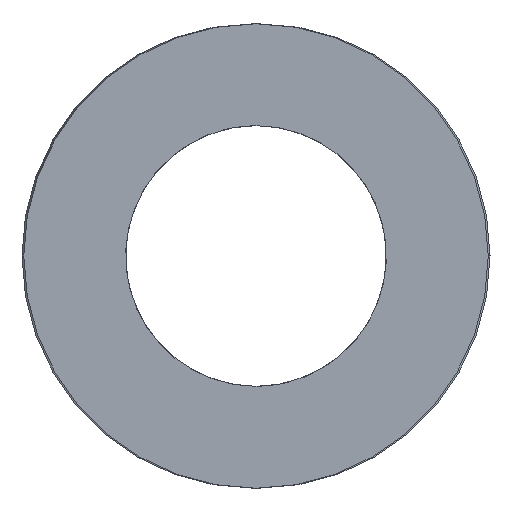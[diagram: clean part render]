
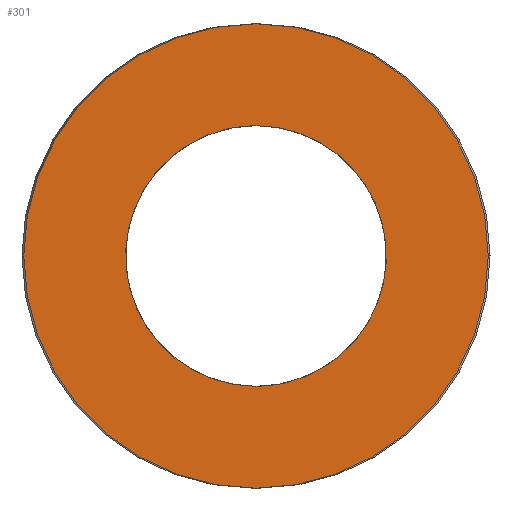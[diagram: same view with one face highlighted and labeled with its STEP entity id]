
A CAD part, left-side view. The second image highlights one B-rep face of the part: STEP entity #301.
In plain terms, the highlighted planar face has unit normal (-1, 0, 0).
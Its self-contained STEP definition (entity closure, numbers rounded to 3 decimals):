
#63=CARTESIAN_POINT('Vertex',(0.,15.5,0.)) ;
#77=CARTESIAN_POINT('Vertex',(0.,-15.5,0.)) ;
#80=CARTESIAN_POINT('Axis2P3D Location',(0.,0.,0.)) ;
#97=CARTESIAN_POINT('Axis2P3D Location',(0.,0.,0.)) ;
#232=CARTESIAN_POINT('Axis2P3D Location',(0.,7.75,0.)) ;
#242=CARTESIAN_POINT('Control Point',(0.,0.,-8.7)) ;
#243=CARTESIAN_POINT('Control Point',(0.,0.867,-8.7)) ;
#244=CARTESIAN_POINT('Control Point',(0.,1.734,-8.592)) ;
#245=CARTESIAN_POINT('Control Point',(0.,2.583,-8.376)) ;
#246=CARTESIAN_POINT('Control Point',(0.,4.209,-7.737)) ;
#247=CARTESIAN_POINT('Control Point',(0.,5.629,-6.719)) ;
#248=CARTESIAN_POINT('Control Point',(0.,6.272,-6.123)) ;
#249=CARTESIAN_POINT('Control Point',(0.,7.395,-4.785)) ;
#250=CARTESIAN_POINT('Control Point',(0.,8.156,-3.211)) ;
#251=CARTESIAN_POINT('Control Point',(0.,8.436,-2.381)) ;
#252=CARTESIAN_POINT('Control Point',(0.,8.783,-0.669)) ;
#253=CARTESIAN_POINT('Control Point',(0.,8.699,1.077)) ;
#254=CARTESIAN_POINT('Control Point',(0.,8.548,1.94)) ;
#255=CARTESIAN_POINT('Control Point',(0.,8.034,3.61)) ;
#256=CARTESIAN_POINT('Control Point',(0.,7.127,5.103)) ;
#257=CARTESIAN_POINT('Control Point',(0.,6.581,5.789)) ;
#258=CARTESIAN_POINT('Control Point',(0.,5.332,7.011)) ;
#259=CARTESIAN_POINT('Control Point',(0.,3.821,7.888)) ;
#260=CARTESIAN_POINT('Control Point',(0.,3.015,8.231)) ;
#261=CARTESIAN_POINT('Control Point',(0.,1.918,8.541)) ;
#262=CARTESIAN_POINT('Control Point',(0.,0.793,8.67)) ;
#263=CARTESIAN_POINT('Control Point',(0.,0.529,8.69)) ;
#264=CARTESIAN_POINT('Control Point',(0.,0.264,8.7)) ;
#265=CARTESIAN_POINT('Control Point',(0.,0.,8.7)) ;
#266=CARTESIAN_POINT('Vertex',(0.,0.,-8.7)) ;
#268=CARTESIAN_POINT('Vertex',(0.,0.,8.7)) ;
#272=CARTESIAN_POINT('Control Point',(0.,0.,8.7)) ;
#273=CARTESIAN_POINT('Control Point',(0.,-0.867,8.7)) ;
#274=CARTESIAN_POINT('Control Point',(0.,-1.734,8.592)) ;
#275=CARTESIAN_POINT('Control Point',(0.,-2.583,8.376)) ;
#276=CARTESIAN_POINT('Control Point',(0.,-4.209,7.737)) ;
#277=CARTESIAN_POINT('Control Point',(0.,-5.629,6.719)) ;
#278=CARTESIAN_POINT('Control Point',(0.,-6.272,6.123)) ;
#279=CARTESIAN_POINT('Control Point',(0.,-7.395,4.785)) ;
#280=CARTESIAN_POINT('Control Point',(0.,-8.156,3.211)) ;
#281=CARTESIAN_POINT('Control Point',(0.,-8.436,2.381)) ;
#282=CARTESIAN_POINT('Control Point',(0.,-8.783,0.669)) ;
#283=CARTESIAN_POINT('Control Point',(0.,-8.699,-1.077)) ;
#284=CARTESIAN_POINT('Control Point',(0.,-8.548,-1.94)) ;
#285=CARTESIAN_POINT('Control Point',(0.,-8.034,-3.61)) ;
#286=CARTESIAN_POINT('Control Point',(0.,-7.127,-5.103)) ;
#287=CARTESIAN_POINT('Control Point',(0.,-6.581,-5.789)) ;
#288=CARTESIAN_POINT('Control Point',(0.,-5.332,-7.011)) ;
#289=CARTESIAN_POINT('Control Point',(0.,-3.821,-7.888)) ;
#290=CARTESIAN_POINT('Control Point',(0.,-3.015,-8.231)) ;
#291=CARTESIAN_POINT('Control Point',(0.,-1.918,-8.541)) ;
#292=CARTESIAN_POINT('Control Point',(0.,-0.793,-8.67)) ;
#293=CARTESIAN_POINT('Control Point',(0.,-0.529,-8.69)) ;
#294=CARTESIAN_POINT('Control Point',(0.,-0.264,-8.7)) ;
#295=CARTESIAN_POINT('Control Point',(0.,0.,-8.7)) ;
#81=DIRECTION('Axis2P3D Direction',(1.,-0.,0.)) ;
#98=DIRECTION('Axis2P3D Direction',(1.,-0.,0.)) ;
#233=DIRECTION('Axis2P3D Direction',(-1.,0.,0.)) ;
#234=DIRECTION('Axis2P3D XDirection',(0.,1.,0.)) ;
#82=AXIS2_PLACEMENT_3D('Circle Axis2P3D',#80,#81,$) ;
#99=AXIS2_PLACEMENT_3D('Circle Axis2P3D',#97,#98,$) ;
#235=AXIS2_PLACEMENT_3D('Plane Axis2P3D',#232,#233,#234) ;
#238=ORIENTED_EDGE('',*,*,#84,.T.) ;
#239=ORIENTED_EDGE('',*,*,#101,.T.) ;
#298=ORIENTED_EDGE('',*,*,#270,.T.) ;
#299=ORIENTED_EDGE('',*,*,#296,.T.) ;
#300=FACE_BOUND('',#297,.T.) ;
#301=ADVANCED_FACE('392-B32-254',(#240,#300),#236,.T.) ;
#241=B_SPLINE_CURVE_WITH_KNOTS('',5,(#242,#243,#244,#245,#246,#247,#248,#249,#250,#251,#252,#253,#254,#255,#256,#257,#258,#259,#260,#261,#262,#263,#264,#265),.UNSPECIFIED.,.F.,.U.,(6,3,3,3,3,3,3,6),(0.,6.131,12.261,18.392,24.522,30.653,36.783,38.652),.UNSPECIFIED.) ;
#271=B_SPLINE_CURVE_WITH_KNOTS('',5,(#272,#273,#274,#275,#276,#277,#278,#279,#280,#281,#282,#283,#284,#285,#286,#287,#288,#289,#290,#291,#292,#293,#294,#295),.UNSPECIFIED.,.F.,.U.,(6,3,3,3,3,3,3,6),(0.,6.131,12.261,18.392,24.522,30.653,36.783,38.652),.UNSPECIFIED.) ;
#83=CIRCLE('generated circle',#82,15.5) ;
#100=CIRCLE('generated circle',#99,15.5) ;
#84=EDGE_CURVE('',#64,#78,#83,.F.) ;
#101=EDGE_CURVE('',#78,#64,#100,.F.) ;
#270=EDGE_CURVE('',#267,#269,#241,.T.) ;
#296=EDGE_CURVE('',#269,#267,#271,.T.) ;
#237=EDGE_LOOP('',(#238,#239)) ;
#297=EDGE_LOOP('',(#298,#299)) ;
#240=FACE_OUTER_BOUND('',#237,.T.) ;
#236=PLANE('Plane',#235) ;
#64=VERTEX_POINT('',#63) ;
#78=VERTEX_POINT('',#77) ;
#267=VERTEX_POINT('',#266) ;
#269=VERTEX_POINT('',#268) ;
